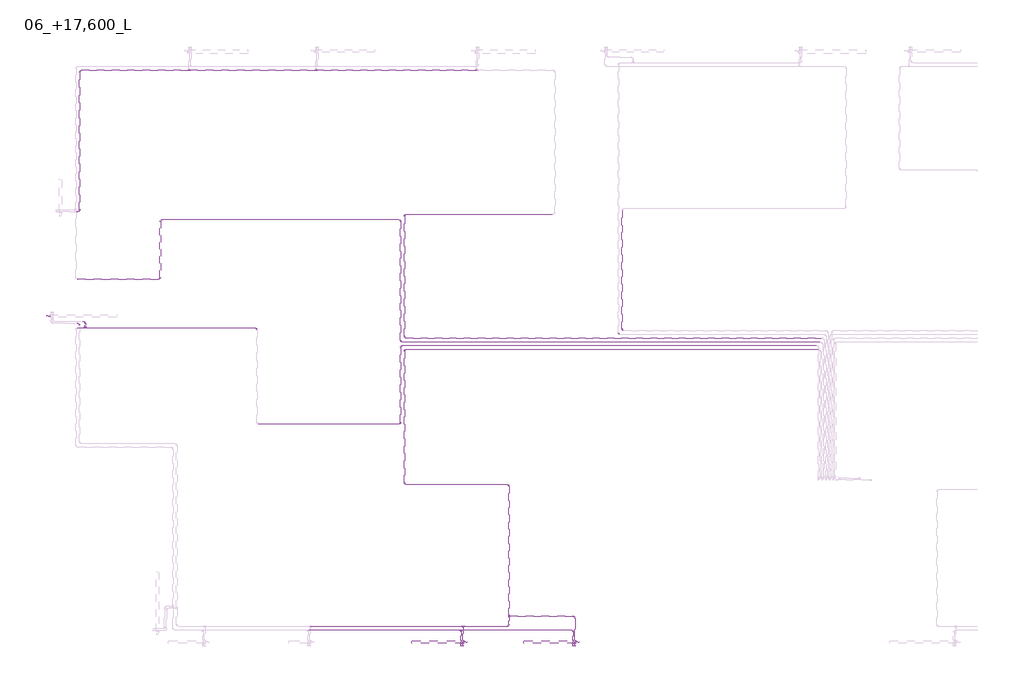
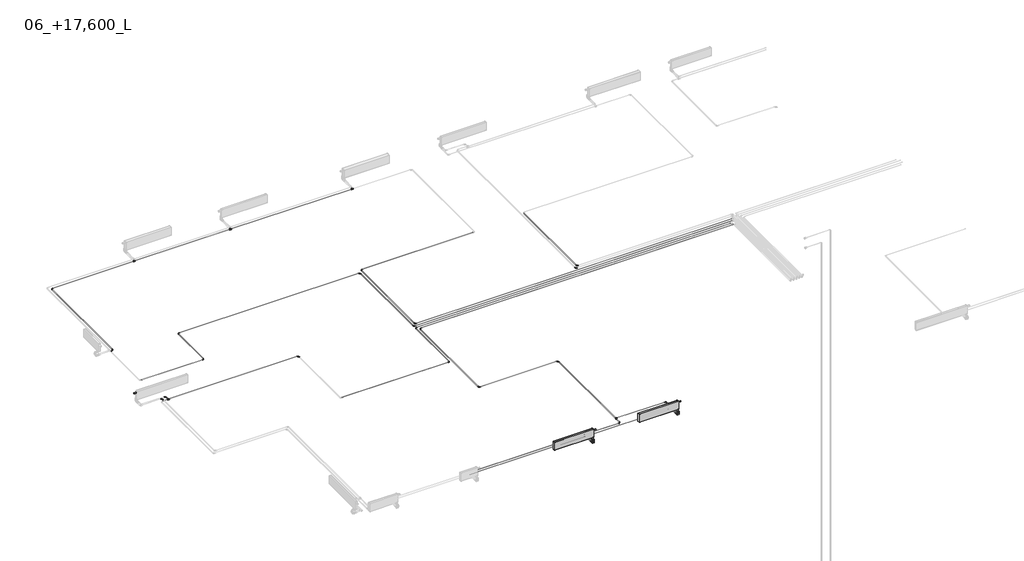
# One storey, part 2 of 7: 33 pipe segments, 32 pipe fittings, 3 valves, 2 proxies.
"""IFC4 building model written with IfcOpenShell, lengths in millimetres."""

from ifc_helpers import new_model, si_unit, point, frame, frame_2d, origin, place, context, project, spatial, circle_curve, trimmed, segment, composite_curve, outline, extrude, transform, mapped, element, save
from components import mechanical_equipment_c68842d5, pipe_fitting_ed936812, pipe_fitting_44bd76dc, pipe_fitting_8f811e63, pipe_fitting_d927fdfb, valve_5b696a81, valve_d3faaedd

model = new_model("IFC4")

# Units and contexts
model_context = context("Model", 3, world=origin())
ifc_project = project(units=[si_unit("LENGTHUNIT", "METRE", prefix="MILLI")], contexts=[model_context])

# Site, building, storey
site = spatial("IfcSite", under=ifc_project)
building = spatial("IfcBuilding", under=site)
storey = spatial("IfcBuildingStorey", under=building, Name="06_+17,600_L", Elevation=17600.0)

# Proxies
placement = place(None, origin())
mechanical_equipment_shape = mechanical_equipment_c68842d5(model_context)
element("IfcBuildingElementProxy", 1, Name="EVRA CV Д : 21-300-1400", ObjectType="EVRA CV Д : 21-300-1400", at=placement, inside=storey, context=model_context, shape_type="MappedRepresentation", body=[
    mapped(mechanical_equipment_shape, transform((60800.0, 112561.4631102, 31400.0), x_axis=(-1.0, 0.0, 0.0), y_axis=(0.0, -1.0, 0.0), z_axis=(0.0, 0.0, 1.0))),
])
element("IfcBuildingElementProxy", 2, Name="EVRA CV Д : 21-300-1400", ObjectType="EVRA CV Д : 21-300-1400", at=placement, inside=storey, context=model_context, shape_type="MappedRepresentation", body=[
    mapped(mechanical_equipment_shape, transform((57800.0, 112561.4631102, 31400.0), x_axis=(-1.0, 0.0, 0.0), y_axis=(0.0, -1.0, 0.0), z_axis=(0.0, 0.0, 1.0))),
])

# Pipe fittings
pipe_fitting_shape = pipe_fitting_ed936812(model_context)
element("IfcPipeFitting", 3, ObjectType="ADSK_Пресс-фитинг ПЭ_Поворот с фиксатором : Поворот трубы", at=placement, inside=storey, context=model_context, shape_type="MappedRepresentation", body=[
    mapped(pipe_fitting_shape, transform((48000.0, 124110.0000002, 31350.0), x_axis=(1.0, 0.0, 0.0), y_axis=(0.0, 1.0, 0.0), z_axis=(0.0, 0.0, 1.0))),
])
pipe_fitting_2_shape = pipe_fitting_44bd76dc(model_context)
element("IfcPipeFitting", 4, ObjectType="ADSK_Пресс-фитинг ПЭ_Тройник : Пластик черный", at=placement, inside=storey, context=model_context, shape_type="MappedRepresentation", body=[
    mapped(pipe_fitting_2_shape, transform((59500.0, 113273.0, 31350.0), x_axis=(0.0, 1.0, 0.0), y_axis=(-1.0, 0.0, 0.0), z_axis=(0.0, 0.0, 1.0))),
])
element("IfcPipeFitting", 5, ObjectType="ADSK_Пресс-фитинг ПЭ_Тройник : Пластик черный", at=placement, inside=storey, context=model_context, shape_type="MappedRepresentation", body=[
    mapped(pipe_fitting_2_shape, transform((58270.0, 113000.0, 31350.0), x_axis=(1.0, 0.0, 0.0), y_axis=(0.0, 1.0, 0.0), z_axis=(0.0, 0.0, 1.0))),
])
element("IfcPipeFitting", 6, ObjectType="ADSK_Пресс-фитинг ПЭ_Тройник : Пластик черный", at=placement, inside=storey, context=model_context, shape_type="MappedRepresentation", body=[
    mapped(pipe_fitting_2_shape, transform((58630.0, 127900.0, 31350.0), x_axis=(1.0, 0.0, 0.0), y_axis=(0.0, -1.0, 0.0), z_axis=(0.0, 0.0, -1.0))),
])
element("IfcPipeFitting", 7, ObjectType="ADSK_Пресс-фитинг ПЭ_Тройник : Пластик черный", at=placement, inside=storey, context=model_context, shape_type="MappedRepresentation", body=[
    mapped(pipe_fitting_2_shape, transform((48150.0, 121000.0000002, 31350.0), x_axis=(1.0, 0.0, 0.0), y_axis=(0.0, -1.0, 0.0), z_axis=(0.0, 0.0, -1.0))),
])
element("IfcPipeFitting", 8, ObjectType="ADSK_Пресс-фитинг ПЭ_Тройник : Пластик черный", at=placement, inside=storey, context=model_context, shape_type="MappedRepresentation", body=[
    mapped(pipe_fitting_2_shape, transform((50930.0, 127900.0, 31350.0), x_axis=(1.0, 0.0, 0.0), y_axis=(0.0, -1.0, 0.0), z_axis=(0.0, 0.0, -1.0))),
])
element("IfcPipeFitting", 9, ObjectType="ADSK_Пресс-фитинг ПЭ_Тройник : Пластик черный", at=placement, inside=storey, context=model_context, shape_type="MappedRepresentation", body=[
    mapped(pipe_fitting_2_shape, transform((54330.0, 127900.0, 31350.0), x_axis=(1.0, 0.0, 0.0), y_axis=(0.0, -1.0, 0.0), z_axis=(0.0, 0.0, -1.0))),
])
element("IfcPipeFitting", 10, ObjectType="ADSK_Пресс-фитинг ПЭ_Тройник : Пластик черный", at=placement, inside=storey, context=model_context, shape_type="MappedRepresentation", body=[
    mapped(pipe_fitting_2_shape, transform((58220.0, 112900.0, 31350.0), x_axis=(1.0, 0.0, 0.0), y_axis=(0.0, 1.0, 0.0), z_axis=(0.0, 0.0, 1.0))),
])
pipe_fitting_3_shape = pipe_fitting_8f811e63(model_context)
element("IfcPipeFitting", 11, ObjectType="ADSK_Пресс-фитинг ПЭ_Поворот с фиксатором : Поворот трубы", at=placement, inside=storey, context=model_context, shape_type="MappedRepresentation", body=[
    mapped(pipe_fitting_3_shape, transform((59500.0, 116805.0000002, 31350.0), x_axis=(0.0, 1.0, 0.0), y_axis=(-1.0, 0.0, 0.0), z_axis=(0.0, 0.0, 1.0))),
])
element("IfcPipeFitting", 12, ObjectType="ADSK_Пресс-фитинг ПЭ_Поворот с фиксатором : Поворот трубы", at=placement, inside=storey, context=model_context, shape_type="MappedRepresentation", body=[
    mapped(pipe_fitting_3_shape, transform((59500.0, 113000.0, 31350.0), x_axis=(1.0, 0.0, 0.0), y_axis=(0.0, 1.0, 0.0), z_axis=(0.0, 0.0, 1.0))),
])
element("IfcPipeFitting", 13, ObjectType="ADSK_Пресс-фитинг ПЭ_Поворот с фиксатором : Поворот трубы", at=placement, inside=storey, context=model_context, shape_type="MappedRepresentation", body=[
    mapped(pipe_fitting_3_shape, transform((48000.0, 127900.0, 31350.0), x_axis=(-1.0, 0.0, 0.0), y_axis=(0.0, -1.0, 0.0), z_axis=(0.0, 0.0, 1.0))),
])
element("IfcPipeFitting", 14, ObjectType="ADSK_Пресс-фитинг ПЭ_Поворот с фиксатором : Поворот трубы", at=placement, inside=storey, context=model_context, shape_type="MappedRepresentation", body=[
    mapped(pipe_fitting_3_shape, transform((56700.0, 116805.0000002, 31350.0), x_axis=(0.0, -1.0, 0.0), y_axis=(1.0, 0.0, 0.0), z_axis=(0.0, 0.0, 1.0))),
])
element("IfcPipeFitting", 15, ObjectType="ADSK_Пресс-фитинг ПЭ_Поворот с фиксатором : Поворот трубы", at=placement, inside=storey, context=model_context, shape_type="MappedRepresentation", body=[
    mapped(pipe_fitting_3_shape, transform((56600.0, 118420.0, 31350.0), x_axis=(1.0, 0.0, 0.0), y_axis=(0.0, 1.0, 0.0), z_axis=(0.0, 0.0, 1.0))),
])
element("IfcPipeFitting", 16, ObjectType="ADSK_Пресс-фитинг ПЭ_Поворот с фиксатором : Поворот трубы", at=placement, inside=storey, context=model_context, shape_type="MappedRepresentation", body=[
    mapped(pipe_fitting_3_shape, transform((56600.0, 123900.0, 31350.0), x_axis=(0.0, 1.0, 0.0), y_axis=(-1.0, 0.0, 0.0), z_axis=(0.0, 0.0, 1.0))),
])
element("IfcPipeFitting", 17, ObjectType="ADSK_Пресс-фитинг ПЭ_Поворот с фиксатором : Поворот трубы", at=placement, inside=storey, context=model_context, shape_type="MappedRepresentation", body=[
    mapped(pipe_fitting_3_shape, transform((56700.0, 120421.8369308, 31350.0), x_axis=(-1.0, 0.0, 0.0), y_axis=(0.0, -1.0, 0.0), z_axis=(0.0, 0.0, 1.0))),
])
element("IfcPipeFitting", 18, ObjectType="ADSK_Пресс-фитинг ПЭ_Поворот с фиксатором : Поворот трубы", at=placement, inside=storey, context=model_context, shape_type="MappedRepresentation", body=[
    mapped(pipe_fitting_3_shape, transform((56600.0, 120521.8369308, 31350.0), x_axis=(-1.0, 0.0, 0.0), y_axis=(0.0, -1.0, 0.0), z_axis=(0.0, 0.0, 1.0))),
])
element("IfcPipeFitting", 19, ObjectType="ADSK_Пресс-фитинг ПЭ_Поворот с фиксатором : Поворот трубы", at=placement, inside=storey, context=model_context, shape_type="MappedRepresentation", body=[
    mapped(pipe_fitting_3_shape, transform((56600.0, 120621.8369308, 31350.0), x_axis=(0.0, -1.0, 0.0), y_axis=(1.0, 0.0, 0.0), z_axis=(0.0, 0.0, 1.0))),
])
element("IfcPipeFitting", 20, ObjectType="ADSK_Пресс-фитинг ПЭ_Поворот с фиксатором : Поворот трубы", at=placement, inside=storey, context=model_context, shape_type="MappedRepresentation", body=[
    mapped(pipe_fitting_3_shape, transform((56700.0, 120721.8369308, 31350.0), x_axis=(0.0, -1.0, 0.0), y_axis=(1.0, 0.0, 0.0), z_axis=(0.0, 0.0, 1.0))),
])
element("IfcPipeFitting", 21, ObjectType="ADSK_Пресс-фитинг ПЭ_Поворот с фиксатором : Поворот трубы", at=placement, inside=storey, context=model_context, shape_type="MappedRepresentation", body=[
    mapped(pipe_fitting_3_shape, transform((62435.0, 120821.8369308, 31350.0), x_axis=(0.0, -1.0, 0.0), y_axis=(1.0, 0.0, 0.0), z_axis=(0.0, 0.0, 1.0))),
])
element("IfcPipeFitting", 22, ObjectType="ADSK_Пресс-фитинг ПЭ_Поворот с фиксатором : Поворот трубы", at=placement, inside=storey, context=model_context, shape_type="MappedRepresentation", body=[
    mapped(pipe_fitting_3_shape, transform((62535.0, 120921.8369308, 31350.0), x_axis=(0.0, -1.0, 0.0), y_axis=(1.0, 0.0, 0.0), z_axis=(0.0, 0.0, 1.0))),
])
element("IfcPipeFitting", 23, ObjectType="ADSK_Пресс-фитинг ПЭ_Поворот с фиксатором : Поворот трубы", at=placement, inside=storey, context=model_context, shape_type="MappedRepresentation", body=[
    mapped(pipe_fitting_3_shape, transform((56700.0, 124040.0, 31350.0), x_axis=(-1.0, 0.0, 0.0), y_axis=(0.0, -1.0, 0.0), z_axis=(0.0, 0.0, 1.0))),
])
element("IfcPipeFitting", 24, ObjectType="ADSK_Пресс-фитинг ПЭ_Поворот с фиксатором : Поворот трубы", at=placement, inside=storey, context=model_context, shape_type="MappedRepresentation", body=[
    mapped(pipe_fitting_3_shape, transform((50159.9999998, 123900.0, 31350.0), x_axis=(-1.0, 0.0, 0.0), y_axis=(0.0, -1.0, 0.0), z_axis=(0.0, 0.0, 1.0))),
])
element("IfcPipeFitting", 25, ObjectType="ADSK_Пресс-фитинг ПЭ_Поворот с фиксатором : Поворот трубы", at=placement, inside=storey, context=model_context, shape_type="MappedRepresentation", body=[
    mapped(pipe_fitting_3_shape, transform((50159.9999998, 122300.0, 31350.0), x_axis=(1.0, 0.0, 0.0), y_axis=(0.0, 1.0, 0.0), z_axis=(0.0, 0.0, 1.0))),
])
element("IfcPipeFitting", 26, ObjectType="ADSK_Пресс-фитинг ПЭ_Поворот с фиксатором : Поворот трубы", at=placement, inside=storey, context=model_context, shape_type="MappedRepresentation", body=[
    mapped(pipe_fitting_3_shape, transform((52749.0000003, 121000.0000002, 31350.0), x_axis=(0.0, 1.0, 0.0), y_axis=(-1.0, 0.0, 0.0), z_axis=(0.0, 0.0, 1.0))),
])
element("IfcPipeFitting", 27, ObjectType="ADSK_Пресс-фитинг ПЭ_Поворот с фиксатором : Поворот трубы", at=placement, inside=storey, context=model_context, shape_type="MappedRepresentation", body=[
    mapped(pipe_fitting_3_shape, transform((48150.0, 121173.0000002, 31350.0), x_axis=(0.0, 1.0, 0.0), y_axis=(-1.0, 0.0, 0.0), z_axis=(0.0, 0.0, 1.0))),
])
element("IfcPipeFitting", 28, ObjectType="ADSK_Пресс-фитинг ПЭ_Поворот с фиксатором : Поворот трубы", at=placement, inside=storey, context=model_context, shape_type="MappedRepresentation", body=[
    mapped(pipe_fitting_3_shape, transform((48000.0, 121123.0000002, 31350.0), x_axis=(0.0, 1.0, 0.0), y_axis=(-1.0, 0.0, 0.0), z_axis=(0.0, 0.0, 1.0))),
])
element("IfcPipeFitting", 29, ObjectType="ADSK_Пресс-фитинг ПЭ_Поворот с фиксатором : Поворот трубы", at=placement, inside=storey, context=model_context, shape_type="MappedRepresentation", body=[
    mapped(pipe_fitting_3_shape, transform((61270.0, 113273.0, 31350.0), x_axis=(0.0, 1.0, 0.0), y_axis=(-1.0, 0.0, 0.0), z_axis=(0.0, 0.0, 1.0))),
])
element("IfcPipeFitting", 30, ObjectType="ADSK_Пресс-фитинг ПЭ_Поворот с фиксатором : Поворот трубы", at=placement, inside=storey, context=model_context, shape_type="MappedRepresentation", body=[
    mapped(pipe_fitting_3_shape, transform((61220.0, 112900.0, 31350.0), x_axis=(0.0, 1.0, 0.0), y_axis=(-1.0, 0.0, 0.0), z_axis=(0.0, 0.0, 1.0))),
])
pipe_fitting_4_shape = pipe_fitting_d927fdfb(model_context)
element("IfcPipeFitting", 31, ObjectType="Трубка Г-образная VTm.481.PC из стены : VTm.481.PC", at=placement, inside=storey, context=model_context, shape_type="MappedRepresentation", body=[
    mapped(pipe_fitting_4_shape, transform((61270.0, 112512.0, 31350.0), x_axis=(-1.0, 0.0, 0.0), y_axis=(0.0, -1.0, 0.0), z_axis=(0.0, 0.0, 1.0))),
])
element("IfcPipeFitting", 32, ObjectType="Трубка Г-образная VTm.481.PC из стены : VTm.481.PC", at=placement, inside=storey, context=model_context, shape_type="MappedRepresentation", body=[
    mapped(pipe_fitting_4_shape, transform((58270.0, 112512.0, 31350.0), x_axis=(-1.0, 0.0, 0.0), y_axis=(0.0, -1.0, 0.0), z_axis=(0.0, 0.0, 1.0))),
])
element("IfcPipeFitting", 33, ObjectType="Трубка Г-образная VTm.481.PC из стены : VTm.481.PC", at=placement, inside=storey, context=model_context, shape_type="MappedRepresentation", body=[
    mapped(pipe_fitting_4_shape, transform((61220.0, 112512.0, 31350.0), x_axis=(-1.0, 0.0, 0.0), y_axis=(0.0, -1.0, 0.0), z_axis=(0.0, 0.0, 1.0))),
])
element("IfcPipeFitting", 34, ObjectType="Трубка Г-образная VTm.481.PC из стены : VTm.481.PC", at=placement, inside=storey, context=model_context, shape_type="MappedRepresentation", body=[
    mapped(pipe_fitting_4_shape, transform((58220.0, 112512.0, 31350.0), x_axis=(-1.0, 0.0, 0.0), y_axis=(0.0, -1.0, 0.0), z_axis=(0.0, 0.0, 1.0))),
])

# Pipe segments
element("IfcPipeSegment", 35, ObjectType="ADSK_Полиэтилен сшитый", at=placement, inside=storey, context=model_context, shape_type="SweptSolid", body=[
    extrude(outline(composite_curve([segment(trimmed(circle_curve(frame_2d((127900.0, 31350.0)), 8.0), [point((127908.0, 31350.0))], [point((127900.0, 31342.0))], False, "CARTESIAN"), True, "CONTINUOUS"), segment(trimmed(circle_curve(frame_2d((127900.0, 31350.0)), 8.0), [point((127900.0, 31342.0))], [point((127892.0, 31350.0))], False, "CARTESIAN"), True, "CONTINUOUS"), segment(trimmed(circle_curve(frame_2d((127900.0, 31350.0)), 8.0), [point((127892.0, 31350.0))], [point((127900.0, 31358.0))], False, "CARTESIAN"), True, "CONTINUOUS"), segment(trimmed(circle_curve(frame_2d((127900.0, 31350.0)), 8.0), [point((127900.0, 31358.0))], [point((127908.0, 31350.0))], False, "CARTESIAN"), True, "CONTINUOUS")], self_intersect=False)), frame((48048.0, 0.0, 0.0), z_axis=(1.0, 0.0, 0.0), x_axis=(0.0, 1.0, 0.0)), (0.0, 0.0, 1.0), 2862.0),
])
element("IfcPipeSegment", 36, ObjectType="ADSK_Полиэтилен сшитый", at=placement, inside=storey, context=model_context, shape_type="SweptSolid", body=[
    extrude(outline(composite_curve([segment(trimmed(circle_curve(frame_2d((31350.0, 56600.0)), 8.0), [point((31350.0, 56592.0))], [point((31342.0, 56600.0))], False, "CARTESIAN"), True, "CONTINUOUS"), segment(trimmed(circle_curve(frame_2d((31350.0, 56600.0)), 8.0), [point((31342.0, 56600.0))], [point((31350.0, 56608.0))], False, "CARTESIAN"), True, "CONTINUOUS"), segment(trimmed(circle_curve(frame_2d((31350.0, 56600.0)), 8.0), [point((31350.0, 56608.0))], [point((31358.0, 56600.0))], False, "CARTESIAN"), True, "CONTINUOUS"), segment(trimmed(circle_curve(frame_2d((31350.0, 56600.0)), 8.0), [point((31358.0, 56600.0))], [point((31350.0, 56592.0))], False, "CARTESIAN"), True, "CONTINUOUS")], self_intersect=False)), frame((0.0, 118468.0, 0.0), z_axis=(0.0, 1.0, 0.0), x_axis=(0.0, 0.0, 1.0)), (0.0, 0.0, 1.0), 2005.8369308),
])
element("IfcPipeSegment", 37, ObjectType="ADSK_Полиэтилен сшитый", at=placement, inside=storey, context=model_context, shape_type="SweptSolid", body=[
    extrude(outline(composite_curve([segment(trimmed(circle_curve(frame_2d((31350.0, 56700.0)), 8.0), [point((31350.0, 56692.0))], [point((31342.0, 56700.0))], False, "CARTESIAN"), True, "CONTINUOUS"), segment(trimmed(circle_curve(frame_2d((31350.0, 56700.0)), 8.0), [point((31342.0, 56700.0))], [point((31350.0, 56708.0))], False, "CARTESIAN"), True, "CONTINUOUS"), segment(trimmed(circle_curve(frame_2d((31350.0, 56700.0)), 8.0), [point((31350.0, 56708.0))], [point((31358.0, 56700.0))], False, "CARTESIAN"), True, "CONTINUOUS"), segment(trimmed(circle_curve(frame_2d((31350.0, 56700.0)), 8.0), [point((31358.0, 56700.0))], [point((31350.0, 56692.0))], False, "CARTESIAN"), True, "CONTINUOUS")], self_intersect=False)), frame((0.0, 116853.0000002, 0.0), z_axis=(0.0, 1.0, 0.0), x_axis=(0.0, 0.0, 1.0)), (0.0, 0.0, 1.0), 3520.8369306),
])
element("IfcPipeSegment", 38, ObjectType="ADSK_Полиэтилен сшитый", at=placement, inside=storey, context=model_context, shape_type="SweptSolid", body=[
    extrude(outline(composite_curve([segment(trimmed(circle_curve(frame_2d((116805.0000002, 31350.0)), 8.0), [point((116797.0000002, 31350.0))], [point((116805.0000002, 31358.0))], False, "CARTESIAN"), True, "CONTINUOUS"), segment(trimmed(circle_curve(frame_2d((116805.0000002, 31350.0)), 8.0), [point((116805.0000002, 31358.0))], [point((116813.0000002, 31350.0))], False, "CARTESIAN"), True, "CONTINUOUS"), segment(trimmed(circle_curve(frame_2d((116805.0000002, 31350.0)), 8.0), [point((116813.0000002, 31350.0))], [point((116805.0000002, 31342.0))], False, "CARTESIAN"), True, "CONTINUOUS"), segment(trimmed(circle_curve(frame_2d((116805.0000002, 31350.0)), 8.0), [point((116805.0000002, 31342.0))], [point((116797.0000002, 31350.0))], False, "CARTESIAN"), True, "CONTINUOUS")], self_intersect=False)), frame((56748.0, 0.0, 0.0), z_axis=(1.0, 0.0, 0.0), x_axis=(0.0, 1.0, 0.0)), (0.0, 0.0, 1.0), 2704.0),
])
element("IfcPipeSegment", 39, ObjectType="ADSK_Полиэтилен сшитый", at=placement, inside=storey, context=model_context, shape_type="SweptSolid", body=[
    extrude(outline(composite_curve([segment(trimmed(circle_curve(frame_2d((31350.0, 59500.0)), 8.0), [point((31350.0, 59492.0))], [point((31342.0, 59500.0))], False, "CARTESIAN"), True, "CONTINUOUS"), segment(trimmed(circle_curve(frame_2d((31350.0, 59500.0)), 8.0), [point((31342.0, 59500.0))], [point((31350.0, 59508.0))], False, "CARTESIAN"), True, "CONTINUOUS"), segment(trimmed(circle_curve(frame_2d((31350.0, 59500.0)), 8.0), [point((31350.0, 59508.0))], [point((31358.0, 59500.0))], False, "CARTESIAN"), True, "CONTINUOUS"), segment(trimmed(circle_curve(frame_2d((31350.0, 59500.0)), 8.0), [point((31358.0, 59500.0))], [point((31350.0, 59492.0))], False, "CARTESIAN"), True, "CONTINUOUS")], self_intersect=False)), frame((0.0, 113048.0, 0.0), z_axis=(0.0, 1.0, 0.0), x_axis=(0.0, 0.0, 1.0)), (0.0, 0.0, 1.0), 205.0),
])
element("IfcPipeSegment", 40, ObjectType="ADSK_Полиэтилен сшитый", at=placement, inside=storey, context=model_context, shape_type="SweptSolid", body=[
    extrude(outline(composite_curve([segment(trimmed(circle_curve(frame_2d((31350.0, 61220.0)), 8.0), [point((31350.0, 61212.0))], [point((31342.0, 61220.0))], False, "CARTESIAN"), True, "CONTINUOUS"), segment(trimmed(circle_curve(frame_2d((31350.0, 61220.0)), 8.0), [point((31342.0, 61220.0))], [point((31350.0, 61228.0))], False, "CARTESIAN"), True, "CONTINUOUS"), segment(trimmed(circle_curve(frame_2d((31350.0, 61220.0)), 8.0), [point((31350.0, 61228.0))], [point((31358.0, 61220.0))], False, "CARTESIAN"), True, "CONTINUOUS"), segment(trimmed(circle_curve(frame_2d((31350.0, 61220.0)), 8.0), [point((31358.0, 61220.0))], [point((31350.0, 61212.0))], False, "CARTESIAN"), True, "CONTINUOUS")], self_intersect=False)), frame((0.0, 112627.0, 0.0), z_axis=(0.0, 1.0, 0.0), x_axis=(0.0, 0.0, 1.0)), (0.0, 0.0, 1.0), 225.0),
])
element("IfcPipeSegment", 41, ObjectType="ADSK_Полиэтилен сшитый", at=placement, inside=storey, context=model_context, shape_type="SweptSolid", body=[
    extrude(outline(composite_curve([segment(trimmed(circle_curve(frame_2d((112900.0, 31350.0)), 8.0), [point((112892.0, 31350.0))], [point((112900.0, 31358.0))], False, "CARTESIAN"), True, "CONTINUOUS"), segment(trimmed(circle_curve(frame_2d((112900.0, 31350.0)), 8.0), [point((112900.0, 31358.0))], [point((112908.0, 31350.0))], False, "CARTESIAN"), True, "CONTINUOUS"), segment(trimmed(circle_curve(frame_2d((112900.0, 31350.0)), 8.0), [point((112908.0, 31350.0))], [point((112900.0, 31342.0))], False, "CARTESIAN"), True, "CONTINUOUS"), segment(trimmed(circle_curve(frame_2d((112900.0, 31350.0)), 8.0), [point((112900.0, 31342.0))], [point((112892.0, 31350.0))], False, "CARTESIAN"), True, "CONTINUOUS")], self_intersect=False)), frame((58240.0, 0.0, 0.0), z_axis=(1.0, 0.0, 0.0), x_axis=(0.0, 1.0, 0.0)), (0.0, 0.0, 1.0), 2932.0),
])
element("IfcPipeSegment", 42, ObjectType="ADSK_Полиэтилен сшитый", at=placement, inside=storey, context=model_context, shape_type="SweptSolid", body=[
    extrude(outline(composite_curve([segment(trimmed(circle_curve(frame_2d((31350.0, 61270.0)), 8.0), [point((31350.0, 61262.0))], [point((31342.0, 61270.0))], False, "CARTESIAN"), True, "CONTINUOUS"), segment(trimmed(circle_curve(frame_2d((31350.0, 61270.0)), 8.0), [point((31342.0, 61270.0))], [point((31350.0, 61278.0))], False, "CARTESIAN"), True, "CONTINUOUS"), segment(trimmed(circle_curve(frame_2d((31350.0, 61270.0)), 8.0), [point((31350.0, 61278.0))], [point((31358.0, 61270.0))], False, "CARTESIAN"), True, "CONTINUOUS"), segment(trimmed(circle_curve(frame_2d((31350.0, 61270.0)), 8.0), [point((31358.0, 61270.0))], [point((31350.0, 61262.0))], False, "CARTESIAN"), True, "CONTINUOUS")], self_intersect=False)), frame((0.0, 112627.0, 0.0), z_axis=(0.0, 1.0, 0.0), x_axis=(0.0, 0.0, 1.0)), (0.0, 0.0, 1.0), 598.0),
])
element("IfcPipeSegment", 43, ObjectType="ADSK_Полиэтилен сшитый", at=placement, inside=storey, context=model_context, shape_type="SweptSolid", body=[
    extrude(outline(composite_curve([segment(trimmed(circle_curve(frame_2d((113273.0, 31350.0)), 8.0), [point((113265.0, 31350.0))], [point((113273.0, 31358.0))], False, "CARTESIAN"), True, "CONTINUOUS"), segment(trimmed(circle_curve(frame_2d((113273.0, 31350.0)), 8.0), [point((113273.0, 31358.0))], [point((113281.0, 31350.0))], False, "CARTESIAN"), True, "CONTINUOUS"), segment(trimmed(circle_curve(frame_2d((113273.0, 31350.0)), 8.0), [point((113281.0, 31350.0))], [point((113273.0, 31342.0))], False, "CARTESIAN"), True, "CONTINUOUS"), segment(trimmed(circle_curve(frame_2d((113273.0, 31350.0)), 8.0), [point((113273.0, 31342.0))], [point((113265.0, 31350.0))], False, "CARTESIAN"), True, "CONTINUOUS")], self_intersect=False)), frame((59524.0, 0.0, 0.0), z_axis=(1.0, 0.0, 0.0), x_axis=(0.0, 1.0, 0.0)), (0.0, 0.0, 1.0), 1698.0),
])
element("IfcPipeSegment", 44, ObjectType="ADSK_Полиэтилен сшитый", at=placement, inside=storey, context=model_context, shape_type="SweptSolid", body=[
    extrude(outline(composite_curve([segment(trimmed(circle_curve(frame_2d((31350.0, 59500.0)), 8.0), [point((31350.0, 59492.0))], [point((31342.0, 59500.0))], False, "CARTESIAN"), True, "CONTINUOUS"), segment(trimmed(circle_curve(frame_2d((31350.0, 59500.0)), 8.0), [point((31342.0, 59500.0))], [point((31350.0, 59508.0))], False, "CARTESIAN"), True, "CONTINUOUS"), segment(trimmed(circle_curve(frame_2d((31350.0, 59500.0)), 8.0), [point((31350.0, 59508.0))], [point((31358.0, 59500.0))], False, "CARTESIAN"), True, "CONTINUOUS"), segment(trimmed(circle_curve(frame_2d((31350.0, 59500.0)), 8.0), [point((31358.0, 59500.0))], [point((31350.0, 59492.0))], False, "CARTESIAN"), True, "CONTINUOUS")], self_intersect=False)), frame((0.0, 113293.0, 0.0), z_axis=(0.0, 1.0, 0.0), x_axis=(0.0, 0.0, 1.0)), (0.0, 0.0, 1.0), 3464.0000002),
])
element("IfcPipeSegment", 45, ObjectType="ADSK_Полиэтилен сшитый", at=placement, inside=storey, context=model_context, shape_type="SweptSolid", body=[
    extrude(outline(composite_curve([segment(trimmed(circle_curve(frame_2d((31350.0, 58220.0)), 8.0), [point((31350.0, 58212.0))], [point((31342.0, 58220.0))], False, "CARTESIAN"), True, "CONTINUOUS"), segment(trimmed(circle_curve(frame_2d((31350.0, 58220.0)), 8.0), [point((31342.0, 58220.0))], [point((31350.0, 58228.0))], False, "CARTESIAN"), True, "CONTINUOUS"), segment(trimmed(circle_curve(frame_2d((31350.0, 58220.0)), 8.0), [point((31350.0, 58228.0))], [point((31358.0, 58220.0))], False, "CARTESIAN"), True, "CONTINUOUS"), segment(trimmed(circle_curve(frame_2d((31350.0, 58220.0)), 8.0), [point((31358.0, 58220.0))], [point((31350.0, 58212.0))], False, "CARTESIAN"), True, "CONTINUOUS")], self_intersect=False)), frame((0.0, 112627.0, 0.0), z_axis=(0.0, 1.0, 0.0), x_axis=(0.0, 0.0, 1.0)), (0.0, 0.0, 1.0), 249.0),
])
element("IfcPipeSegment", 46, ObjectType="ADSK_Полиэтилен сшитый", at=placement, inside=storey, context=model_context, shape_type="SweptSolid", body=[
    extrude(outline(composite_curve([segment(trimmed(circle_curve(frame_2d((31350.0, 58270.0)), 8.0), [point((31350.0, 58262.0))], [point((31342.0, 58270.0))], False, "CARTESIAN"), True, "CONTINUOUS"), segment(trimmed(circle_curve(frame_2d((31350.0, 58270.0)), 8.0), [point((31342.0, 58270.0))], [point((31350.0, 58278.0))], False, "CARTESIAN"), True, "CONTINUOUS"), segment(trimmed(circle_curve(frame_2d((31350.0, 58270.0)), 8.0), [point((31350.0, 58278.0))], [point((31358.0, 58270.0))], False, "CARTESIAN"), True, "CONTINUOUS"), segment(trimmed(circle_curve(frame_2d((31350.0, 58270.0)), 8.0), [point((31358.0, 58270.0))], [point((31350.0, 58262.0))], False, "CARTESIAN"), True, "CONTINUOUS")], self_intersect=False)), frame((0.0, 112627.0, 0.0), z_axis=(0.0, 1.0, 0.0), x_axis=(0.0, 0.0, 1.0)), (0.0, 0.0, 1.0), 349.0),
])
element("IfcPipeSegment", 47, ObjectType="ADSK_Полиэтилен сшитый", at=placement, inside=storey, context=model_context, shape_type="SweptSolid", body=[
    extrude(outline(composite_curve([segment(trimmed(circle_curve(frame_2d((113000.0, 31350.0)), 8.0), [point((113008.0, 31350.0))], [point((113000.0, 31342.0))], False, "CARTESIAN"), True, "CONTINUOUS"), segment(trimmed(circle_curve(frame_2d((113000.0, 31350.0)), 8.0), [point((113000.0, 31342.0))], [point((112992.0, 31350.0))], False, "CARTESIAN"), True, "CONTINUOUS"), segment(trimmed(circle_curve(frame_2d((113000.0, 31350.0)), 8.0), [point((112992.0, 31350.0))], [point((113000.0, 31358.0))], False, "CARTESIAN"), True, "CONTINUOUS"), segment(trimmed(circle_curve(frame_2d((113000.0, 31350.0)), 8.0), [point((113000.0, 31358.0))], [point((113008.0, 31350.0))], False, "CARTESIAN"), True, "CONTINUOUS")], self_intersect=False)), frame((58290.0, 0.0, 0.0), z_axis=(1.0, 0.0, 0.0), x_axis=(0.0, 1.0, 0.0)), (0.0, 0.0, 1.0), 1162.0),
])
element("IfcPipeSegment", 48, ObjectType="ADSK_Полиэтилен сшитый", at=placement, inside=storey, context=model_context, shape_type="SweptSolid", body=[
    extrude(outline(composite_curve([segment(trimmed(circle_curve(frame_2d((31350.0, 56600.0)), 8.0), [point((31350.0, 56608.0))], [point((31358.0, 56600.0))], False, "CARTESIAN"), True, "CONTINUOUS"), segment(trimmed(circle_curve(frame_2d((31350.0, 56600.0)), 8.0), [point((31358.0, 56600.0))], [point((31350.0, 56592.0))], False, "CARTESIAN"), True, "CONTINUOUS"), segment(trimmed(circle_curve(frame_2d((31350.0, 56600.0)), 8.0), [point((31350.0, 56592.0))], [point((31342.0, 56600.0))], False, "CARTESIAN"), True, "CONTINUOUS"), segment(trimmed(circle_curve(frame_2d((31350.0, 56600.0)), 8.0), [point((31342.0, 56600.0))], [point((31350.0, 56608.0))], False, "CARTESIAN"), True, "CONTINUOUS")], self_intersect=False)), frame((0.0, 120669.8369308, 0.0), z_axis=(0.0, 1.0, 0.0), x_axis=(0.0, 0.0, 1.0)), (0.0, 0.0, 1.0), 3182.1630692),
])
element("IfcPipeSegment", 49, ObjectType="ADSK_Полиэтилен сшитый", at=placement, inside=storey, context=model_context, shape_type="SweptSolid", body=[
    extrude(outline(composite_curve([segment(trimmed(circle_curve(frame_2d((31350.0, 56700.0)), 8.0), [point((31350.0, 56708.0))], [point((31358.0, 56700.0))], False, "CARTESIAN"), True, "CONTINUOUS"), segment(trimmed(circle_curve(frame_2d((31350.0, 56700.0)), 8.0), [point((31358.0, 56700.0))], [point((31350.0, 56692.0))], False, "CARTESIAN"), True, "CONTINUOUS"), segment(trimmed(circle_curve(frame_2d((31350.0, 56700.0)), 8.0), [point((31350.0, 56692.0))], [point((31342.0, 56700.0))], False, "CARTESIAN"), True, "CONTINUOUS"), segment(trimmed(circle_curve(frame_2d((31350.0, 56700.0)), 8.0), [point((31342.0, 56700.0))], [point((31350.0, 56708.0))], False, "CARTESIAN"), True, "CONTINUOUS")], self_intersect=False)), frame((0.0, 120769.8369308, 0.0), z_axis=(0.0, 1.0, 0.0), x_axis=(0.0, 0.0, 1.0)), (0.0, 0.0, 1.0), 3222.1630692),
])
element("IfcPipeSegment", 50, ObjectType="ADSK_Полиэтилен сшитый", at=placement, inside=storey, context=model_context, shape_type="SweptSolid", body=[
    extrude(outline(composite_curve([segment(trimmed(circle_curve(frame_2d((124040.0, 31350.0)), 8.0), [point((124048.0, 31350.0))], [point((124040.0, 31342.0))], False, "CARTESIAN"), True, "CONTINUOUS"), segment(trimmed(circle_curve(frame_2d((124040.0, 31350.0)), 8.0), [point((124040.0, 31342.0))], [point((124032.0, 31350.0))], False, "CARTESIAN"), True, "CONTINUOUS"), segment(trimmed(circle_curve(frame_2d((124040.0, 31350.0)), 8.0), [point((124032.0, 31350.0))], [point((124040.0, 31358.0))], False, "CARTESIAN"), True, "CONTINUOUS"), segment(trimmed(circle_curve(frame_2d((124040.0, 31350.0)), 8.0), [point((124040.0, 31358.0))], [point((124048.0, 31350.0))], False, "CARTESIAN"), True, "CONTINUOUS")], self_intersect=False)), frame((56748.0, 0.0, 0.0), z_axis=(1.0, 0.0, 0.0), x_axis=(0.0, 1.0, 0.0)), (0.0, 0.0, 1.0), 3934.0),
])
element("IfcPipeSegment", 51, ObjectType="ADSK_Полиэтилен сшитый", at=placement, inside=storey, context=model_context, shape_type="SweptSolid", body=[
    extrude(outline(composite_curve([segment(trimmed(circle_curve(frame_2d((127900.0, 31350.0)), 8.0), [point((127908.0, 31350.0))], [point((127900.0, 31342.0))], False, "CARTESIAN"), True, "CONTINUOUS"), segment(trimmed(circle_curve(frame_2d((127900.0, 31350.0)), 8.0), [point((127900.0, 31342.0))], [point((127892.0, 31350.0))], False, "CARTESIAN"), True, "CONTINUOUS"), segment(trimmed(circle_curve(frame_2d((127900.0, 31350.0)), 8.0), [point((127892.0, 31350.0))], [point((127900.0, 31358.0))], False, "CARTESIAN"), True, "CONTINUOUS"), segment(trimmed(circle_curve(frame_2d((127900.0, 31350.0)), 8.0), [point((127900.0, 31358.0))], [point((127908.0, 31350.0))], False, "CARTESIAN"), True, "CONTINUOUS")], self_intersect=False)), frame((50950.0, 0.0, 0.0), z_axis=(1.0, 0.0, 0.0), x_axis=(0.0, 1.0, 0.0)), (0.0, 0.0, 1.0), 3360.0),
])
element("IfcPipeSegment", 52, ObjectType="ADSK_Полиэтилен сшитый", at=placement, inside=storey, context=model_context, shape_type="SweptSolid", body=[
    extrude(outline(composite_curve([segment(trimmed(circle_curve(frame_2d((31350.0, 48000.0)), 8.0), [point((31350.0, 47992.0))], [point((31342.0, 48000.0))], False, "CARTESIAN"), True, "CONTINUOUS"), segment(trimmed(circle_curve(frame_2d((31350.0, 48000.0)), 8.0), [point((31342.0, 48000.0))], [point((31350.0, 48008.0))], False, "CARTESIAN"), True, "CONTINUOUS"), segment(trimmed(circle_curve(frame_2d((31350.0, 48000.0)), 8.0), [point((31350.0, 48008.0))], [point((31358.0, 48000.0))], False, "CARTESIAN"), True, "CONTINUOUS"), segment(trimmed(circle_curve(frame_2d((31350.0, 48000.0)), 8.0), [point((31358.0, 48000.0))], [point((31350.0, 47992.0))], False, "CARTESIAN"), True, "CONTINUOUS")], self_intersect=False)), frame((0.0, 124158.0000002, 0.0), z_axis=(0.0, 1.0, 0.0), x_axis=(0.0, 0.0, 1.0)), (0.0, 0.0, 1.0), 3693.9999998),
])
element("IfcPipeSegment", 53, ObjectType="ADSK_Полиэтилен сшитый", at=placement, inside=storey, context=model_context, shape_type="SweptSolid", body=[
    extrude(outline(composite_curve([segment(trimmed(circle_curve(frame_2d((31350.0, 62535.0)), 8.0), [point((31350.0, 62543.0))], [point((31358.0, 62535.0))], False, "CARTESIAN"), True, "CONTINUOUS"), segment(trimmed(circle_curve(frame_2d((31350.0, 62535.0)), 8.0), [point((31358.0, 62535.0))], [point((31350.0, 62527.0))], False, "CARTESIAN"), True, "CONTINUOUS"), segment(trimmed(circle_curve(frame_2d((31350.0, 62535.0)), 8.0), [point((31350.0, 62527.0))], [point((31342.0, 62535.0))], False, "CARTESIAN"), True, "CONTINUOUS"), segment(trimmed(circle_curve(frame_2d((31350.0, 62535.0)), 8.0), [point((31342.0, 62535.0))], [point((31350.0, 62543.0))], False, "CARTESIAN"), True, "CONTINUOUS")], self_intersect=False)), frame((0.0, 120969.8369308, 0.0), z_axis=(0.0, 1.0, 0.0), x_axis=(0.0, 0.0, 1.0)), (0.0, 0.0, 1.0), 3182.1630692),
])
element("IfcPipeSegment", 54, ObjectType="ADSK_Полиэтилен сшитый", at=placement, inside=storey, context=model_context, shape_type="SweptSolid", body=[
    extrude(outline(composite_curve([segment(trimmed(circle_curve(frame_2d((120721.8369308, 31350.0)), 8.0), [point((120729.8369308, 31350.0))], [point((120721.8369308, 31342.0))], False, "CARTESIAN"), True, "CONTINUOUS"), segment(trimmed(circle_curve(frame_2d((120721.8369308, 31350.0)), 8.0), [point((120721.8369308, 31342.0))], [point((120713.8369308, 31350.0))], False, "CARTESIAN"), True, "CONTINUOUS"), segment(trimmed(circle_curve(frame_2d((120721.8369308, 31350.0)), 8.0), [point((120713.8369308, 31350.0))], [point((120721.8369308, 31358.0))], False, "CARTESIAN"), True, "CONTINUOUS"), segment(trimmed(circle_curve(frame_2d((120721.8369308, 31350.0)), 8.0), [point((120721.8369308, 31358.0))], [point((120729.8369308, 31350.0))], False, "CARTESIAN"), True, "CONTINUOUS")], self_intersect=False)), frame((56748.0, 0.0, 0.0), z_axis=(1.0, 0.0, 0.0), x_axis=(0.0, 1.0, 0.0)), (0.0, 0.0, 1.0), 11149.0),
])
element("IfcPipeSegment", 55, ObjectType="ADSK_Полиэтилен сшитый", at=placement, inside=storey, context=model_context, shape_type="SweptSolid", body=[
    extrude(outline(composite_curve([segment(trimmed(circle_curve(frame_2d((120621.8369308, 31350.0)), 8.0), [point((120629.8369308, 31350.0))], [point((120621.8369308, 31342.0))], False, "CARTESIAN"), True, "CONTINUOUS"), segment(trimmed(circle_curve(frame_2d((120621.8369308, 31350.0)), 8.0), [point((120621.8369308, 31342.0))], [point((120613.8369308, 31350.0))], False, "CARTESIAN"), True, "CONTINUOUS"), segment(trimmed(circle_curve(frame_2d((120621.8369308, 31350.0)), 8.0), [point((120613.8369308, 31350.0))], [point((120621.8369308, 31358.0))], False, "CARTESIAN"), True, "CONTINUOUS"), segment(trimmed(circle_curve(frame_2d((120621.8369308, 31350.0)), 8.0), [point((120621.8369308, 31358.0))], [point((120629.8369308, 31350.0))], False, "CARTESIAN"), True, "CONTINUOUS")], self_intersect=False)), frame((56648.0, 0.0, 0.0), z_axis=(1.0, 0.0, 0.0), x_axis=(0.0, 1.0, 0.0)), (0.0, 0.0, 1.0), 11199.0),
])
element("IfcPipeSegment", 56, ObjectType="ADSK_Полиэтилен сшитый", at=placement, inside=storey, context=model_context, shape_type="SweptSolid", body=[
    extrude(outline(composite_curve([segment(trimmed(circle_curve(frame_2d((120521.8369308, 31350.0)), 8.0), [point((120529.8369308, 31350.0))], [point((120521.8369308, 31342.0))], False, "CARTESIAN"), True, "CONTINUOUS"), segment(trimmed(circle_curve(frame_2d((120521.8369308, 31350.0)), 8.0), [point((120521.8369308, 31342.0))], [point((120513.8369308, 31350.0))], False, "CARTESIAN"), True, "CONTINUOUS"), segment(trimmed(circle_curve(frame_2d((120521.8369308, 31350.0)), 8.0), [point((120513.8369308, 31350.0))], [point((120521.8369308, 31358.0))], False, "CARTESIAN"), True, "CONTINUOUS"), segment(trimmed(circle_curve(frame_2d((120521.8369308, 31350.0)), 8.0), [point((120521.8369308, 31358.0))], [point((120529.8369308, 31350.0))], False, "CARTESIAN"), True, "CONTINUOUS")], self_intersect=False)), frame((56648.0, 0.0, 0.0), z_axis=(1.0, 0.0, 0.0), x_axis=(0.0, 1.0, 0.0)), (0.0, 0.0, 1.0), 11099.0),
])
element("IfcPipeSegment", 57, ObjectType="ADSK_Полиэтилен сшитый", at=placement, inside=storey, context=model_context, shape_type="SweptSolid", body=[
    extrude(outline(composite_curve([segment(trimmed(circle_curve(frame_2d((120421.8369308, 31350.0)), 8.0), [point((120429.8369308, 31350.0))], [point((120421.8369308, 31342.0))], False, "CARTESIAN"), True, "CONTINUOUS"), segment(trimmed(circle_curve(frame_2d((120421.8369308, 31350.0)), 8.0), [point((120421.8369308, 31342.0))], [point((120413.8369308, 31350.0))], False, "CARTESIAN"), True, "CONTINUOUS"), segment(trimmed(circle_curve(frame_2d((120421.8369308, 31350.0)), 8.0), [point((120413.8369308, 31350.0))], [point((120421.8369308, 31358.0))], False, "CARTESIAN"), True, "CONTINUOUS"), segment(trimmed(circle_curve(frame_2d((120421.8369308, 31350.0)), 8.0), [point((120421.8369308, 31358.0))], [point((120429.8369308, 31350.0))], False, "CARTESIAN"), True, "CONTINUOUS")], self_intersect=False)), frame((56748.0, 0.0, 0.0), z_axis=(1.0, 0.0, 0.0), x_axis=(0.0, 1.0, 0.0)), (0.0, 0.0, 1.0), 11049.0),
])
element("IfcPipeSegment", 58, ObjectType="ADSK_Полиэтилен сшитый", at=placement, inside=storey, context=model_context, shape_type="SweptSolid", body=[
    extrude(outline(composite_curve([segment(trimmed(circle_curve(frame_2d((123900.0, 31350.0)), 8.0), [point((123908.0, 31350.0))], [point((123900.0, 31342.0))], False, "CARTESIAN"), True, "CONTINUOUS"), segment(trimmed(circle_curve(frame_2d((123900.0, 31350.0)), 8.0), [point((123900.0, 31342.0))], [point((123892.0, 31350.0))], False, "CARTESIAN"), True, "CONTINUOUS"), segment(trimmed(circle_curve(frame_2d((123900.0, 31350.0)), 8.0), [point((123892.0, 31350.0))], [point((123900.0, 31358.0))], False, "CARTESIAN"), True, "CONTINUOUS"), segment(trimmed(circle_curve(frame_2d((123900.0, 31350.0)), 8.0), [point((123900.0, 31358.0))], [point((123908.0, 31350.0))], False, "CARTESIAN"), True, "CONTINUOUS")], self_intersect=False)), frame((50207.9999998, 0.0, 0.0), z_axis=(1.0, 0.0, 0.0), x_axis=(0.0, 1.0, 0.0)), (0.0, 0.0, 1.0), 6344.0000002),
])
element("IfcPipeSegment", 59, ObjectType="ADSK_Полиэтилен сшитый", at=placement, inside=storey, context=model_context, shape_type="SweptSolid", body=[
    extrude(outline(composite_curve([segment(trimmed(circle_curve(frame_2d((31350.0, 50159.9999998)), 8.0), [point((31350.0, 50151.9999998))], [point((31342.0, 50159.9999998))], False, "CARTESIAN"), True, "CONTINUOUS"), segment(trimmed(circle_curve(frame_2d((31350.0, 50159.9999998)), 8.0), [point((31342.0, 50159.9999998))], [point((31350.0, 50167.9999998))], False, "CARTESIAN"), True, "CONTINUOUS"), segment(trimmed(circle_curve(frame_2d((31350.0, 50159.9999998)), 8.0), [point((31350.0, 50167.9999998))], [point((31358.0, 50159.9999998))], False, "CARTESIAN"), True, "CONTINUOUS"), segment(trimmed(circle_curve(frame_2d((31350.0, 50159.9999998)), 8.0), [point((31358.0, 50159.9999998))], [point((31350.0, 50151.9999998))], False, "CARTESIAN"), True, "CONTINUOUS")], self_intersect=False)), frame((0.0, 122348.0, 0.0), z_axis=(0.0, 1.0, 0.0), x_axis=(0.0, 0.0, 1.0)), (0.0, 0.0, 1.0), 1504.0),
])
element("IfcPipeSegment", 60, ObjectType="ADSK_Полиэтилен сшитый", at=placement, inside=storey, context=model_context, shape_type="SweptSolid", body=[
    extrude(outline(composite_curve([segment(trimmed(circle_curve(frame_2d((122300.0, 31350.0)), 8.0), [point((122292.0, 31350.0))], [point((122300.0, 31358.0))], False, "CARTESIAN"), True, "CONTINUOUS"), segment(trimmed(circle_curve(frame_2d((122300.0, 31350.0)), 8.0), [point((122300.0, 31358.0))], [point((122308.0, 31350.0))], False, "CARTESIAN"), True, "CONTINUOUS"), segment(trimmed(circle_curve(frame_2d((122300.0, 31350.0)), 8.0), [point((122308.0, 31350.0))], [point((122300.0, 31342.0))], False, "CARTESIAN"), True, "CONTINUOUS"), segment(trimmed(circle_curve(frame_2d((122300.0, 31350.0)), 8.0), [point((122300.0, 31342.0))], [point((122292.0, 31350.0))], False, "CARTESIAN"), True, "CONTINUOUS")], self_intersect=False)), frame((47948.0, 0.0, 0.0), z_axis=(1.0, 0.0, 0.0), x_axis=(0.0, 1.0, 0.0)), (0.0, 0.0, 1.0), 2163.9999998),
])
element("IfcPipeSegment", 61, ObjectType="ADSK_Полиэтилен сшитый", at=placement, inside=storey, context=model_context, shape_type="SweptSolid", body=[
    extrude(outline(composite_curve([segment(trimmed(circle_curve(frame_2d((118420.0, 31350.0)), 8.0), [point((118428.0, 31350.0))], [point((118420.0, 31342.0))], False, "CARTESIAN"), True, "CONTINUOUS"), segment(trimmed(circle_curve(frame_2d((118420.0, 31350.0)), 8.0), [point((118420.0, 31342.0))], [point((118412.0, 31350.0))], False, "CARTESIAN"), True, "CONTINUOUS"), segment(trimmed(circle_curve(frame_2d((118420.0, 31350.0)), 8.0), [point((118412.0, 31350.0))], [point((118420.0, 31358.0))], False, "CARTESIAN"), True, "CONTINUOUS"), segment(trimmed(circle_curve(frame_2d((118420.0, 31350.0)), 8.0), [point((118420.0, 31358.0))], [point((118428.0, 31350.0))], False, "CARTESIAN"), True, "CONTINUOUS")], self_intersect=False)), frame((52797.0000003, 0.0, 0.0), z_axis=(1.0, 0.0, 0.0), x_axis=(0.0, 1.0, 0.0)), (0.0, 0.0, 1.0), 3754.9999997),
])
element("IfcPipeSegment", 62, ObjectType="ADSK_Полиэтилен сшитый", at=placement, inside=storey, context=model_context, shape_type="SweptSolid", body=[
    extrude(outline(composite_curve([segment(trimmed(circle_curve(frame_2d((121000.0000002, 31350.0)), 8.0), [point((121008.0000002, 31350.0))], [point((121000.0000002, 31342.0))], False, "CARTESIAN"), True, "CONTINUOUS"), segment(trimmed(circle_curve(frame_2d((121000.0000002, 31350.0)), 8.0), [point((121000.0000002, 31342.0))], [point((120992.0000002, 31350.0))], False, "CARTESIAN"), True, "CONTINUOUS"), segment(trimmed(circle_curve(frame_2d((121000.0000002, 31350.0)), 8.0), [point((120992.0000002, 31350.0))], [point((121000.0000002, 31358.0))], False, "CARTESIAN"), True, "CONTINUOUS"), segment(trimmed(circle_curve(frame_2d((121000.0000002, 31350.0)), 8.0), [point((121000.0000002, 31358.0))], [point((121008.0000002, 31350.0))], False, "CARTESIAN"), True, "CONTINUOUS")], self_intersect=False)), frame((47948.0, 0.0, 0.0), z_axis=(1.0, 0.0, 0.0), x_axis=(0.0, 1.0, 0.0)), (0.0, 0.0, 1.0), 183.0),
])
element("IfcPipeSegment", 63, ObjectType="ADSK_Полиэтилен сшитый", at=placement, inside=storey, context=model_context, shape_type="SweptSolid", body=[
    extrude(outline(composite_curve([segment(trimmed(circle_curve(frame_2d((31350.0, 48150.0)), 8.0), [point((31350.0, 48158.0))], [point((31358.0, 48150.0))], False, "CARTESIAN"), True, "CONTINUOUS"), segment(trimmed(circle_curve(frame_2d((31350.0, 48150.0)), 8.0), [point((31358.0, 48150.0))], [point((31350.0, 48142.0))], False, "CARTESIAN"), True, "CONTINUOUS"), segment(trimmed(circle_curve(frame_2d((31350.0, 48150.0)), 8.0), [point((31350.0, 48142.0))], [point((31342.0, 48150.0))], False, "CARTESIAN"), True, "CONTINUOUS"), segment(trimmed(circle_curve(frame_2d((31350.0, 48150.0)), 8.0), [point((31342.0, 48150.0))], [point((31350.0, 48158.0))], False, "CARTESIAN"), True, "CONTINUOUS")], self_intersect=False)), frame((0.0, 121024.0000002, 0.0), z_axis=(0.0, 1.0, 0.0), x_axis=(0.0, 0.0, 1.0)), (0.0, 0.0, 1.0), 101.0),
])
element("IfcPipeSegment", 64, ObjectType="ADSK_Полиэтилен сшитый", at=placement, inside=storey, context=model_context, shape_type="SweptSolid", body=[
    extrude(outline(composite_curve([segment(trimmed(circle_curve(frame_2d((121000.0000002, 31350.0)), 8.0), [point((121008.0000002, 31350.0))], [point((121000.0000002, 31342.0))], False, "CARTESIAN"), True, "CONTINUOUS"), segment(trimmed(circle_curve(frame_2d((121000.0000002, 31350.0)), 8.0), [point((121000.0000002, 31342.0))], [point((120992.0000002, 31350.0))], False, "CARTESIAN"), True, "CONTINUOUS"), segment(trimmed(circle_curve(frame_2d((121000.0000002, 31350.0)), 8.0), [point((120992.0000002, 31350.0))], [point((121000.0000002, 31358.0))], False, "CARTESIAN"), True, "CONTINUOUS"), segment(trimmed(circle_curve(frame_2d((121000.0000002, 31350.0)), 8.0), [point((121000.0000002, 31358.0))], [point((121008.0000002, 31350.0))], False, "CARTESIAN"), True, "CONTINUOUS")], self_intersect=False)), frame((48170.0, 0.0, 0.0), z_axis=(1.0, 0.0, 0.0), x_axis=(0.0, 1.0, 0.0)), (0.0, 0.0, 1.0), 4531.0000003),
])
element("IfcPipeSegment", 65, ObjectType="ADSK_Полиэтилен сшитый", at=placement, inside=storey, context=model_context, shape_type="SweptSolid", body=[
    extrude(outline(composite_curve([segment(trimmed(circle_curve(frame_2d((127900.0, 31350.0)), 8.0), [point((127908.0, 31350.0))], [point((127900.0, 31342.0))], False, "CARTESIAN"), True, "CONTINUOUS"), segment(trimmed(circle_curve(frame_2d((127900.0, 31350.0)), 8.0), [point((127900.0, 31342.0))], [point((127892.0, 31350.0))], False, "CARTESIAN"), True, "CONTINUOUS"), segment(trimmed(circle_curve(frame_2d((127900.0, 31350.0)), 8.0), [point((127892.0, 31350.0))], [point((127900.0, 31358.0))], False, "CARTESIAN"), True, "CONTINUOUS"), segment(trimmed(circle_curve(frame_2d((127900.0, 31350.0)), 8.0), [point((127900.0, 31358.0))], [point((127908.0, 31350.0))], False, "CARTESIAN"), True, "CONTINUOUS")], self_intersect=False)), frame((54350.0, 0.0, 0.0), z_axis=(1.0, 0.0, 0.0), x_axis=(0.0, 1.0, 0.0)), (0.0, 0.0, 1.0), 4261.0),
])
element("IfcPipeSegment", 66, ObjectType="ADSK_Полиэтилен сшитый", at=placement, inside=storey, context=model_context, shape_type="SweptSolid", body=[
    extrude(outline(composite_curve([segment(trimmed(circle_curve(frame_2d((112900.0, 31350.0)), 8.0), [point((112892.0, 31350.0))], [point((112900.0, 31358.0))], False, "CARTESIAN"), True, "CONTINUOUS"), segment(trimmed(circle_curve(frame_2d((112900.0, 31350.0)), 8.0), [point((112900.0, 31358.0))], [point((112908.0, 31350.0))], False, "CARTESIAN"), True, "CONTINUOUS"), segment(trimmed(circle_curve(frame_2d((112900.0, 31350.0)), 8.0), [point((112908.0, 31350.0))], [point((112900.0, 31342.0))], False, "CARTESIAN"), True, "CONTINUOUS"), segment(trimmed(circle_curve(frame_2d((112900.0, 31350.0)), 8.0), [point((112900.0, 31342.0))], [point((112892.0, 31350.0))], False, "CARTESIAN"), True, "CONTINUOUS")], self_intersect=False)), frame((54140.0, 0.0, 0.0), z_axis=(1.0, 0.0, 0.0), x_axis=(0.0, 1.0, 0.0)), (0.0, 0.0, 1.0), 4060.0),
])
element("IfcPipeSegment", 67, ObjectType="ADSK_Полиэтилен сшитый", at=placement, inside=storey, context=model_context, shape_type="SweptSolid", body=[
    extrude(outline(composite_curve([segment(trimmed(circle_curve(frame_2d((113000.0, 31350.0)), 8.0), [point((113008.0, 31350.0))], [point((113000.0, 31342.0))], False, "CARTESIAN"), True, "CONTINUOUS"), segment(trimmed(circle_curve(frame_2d((113000.0, 31350.0)), 8.0), [point((113000.0, 31342.0))], [point((112992.0, 31350.0))], False, "CARTESIAN"), True, "CONTINUOUS"), segment(trimmed(circle_curve(frame_2d((113000.0, 31350.0)), 8.0), [point((112992.0, 31350.0))], [point((113000.0, 31358.0))], False, "CARTESIAN"), True, "CONTINUOUS"), segment(trimmed(circle_curve(frame_2d((113000.0, 31350.0)), 8.0), [point((113000.0, 31358.0))], [point((113008.0, 31350.0))], False, "CARTESIAN"), True, "CONTINUOUS")], self_intersect=False)), frame((54189.0, 0.0, 0.0), z_axis=(1.0, 0.0, 0.0), x_axis=(0.0, 1.0, 0.0)), (0.0, 0.0, 1.0), 4062.0),
])

# Valves
valve_shape = valve_5b696a81(model_context)
element("IfcValve", 68, ObjectType="EVRA_Термоголовка EVRA MТB140 : EVRA MТB140", at=placement, inside=storey, context=model_context, shape_type="MappedRepresentation", body=[
    mapped(valve_shape, transform((60600.0, 112587.0, 31750.0), x_axis=(-1.0, 0.0, 0.0), y_axis=(0.0, -1.0, 0.0), z_axis=(0.0, 0.0, 1.0))),
])
element("IfcValve", 69, ObjectType="EVRA_Термоголовка EVRA MТB140 : EVRA MТB140", at=placement, inside=storey, context=model_context, shape_type="MappedRepresentation", body=[
    mapped(valve_shape, transform((57600.0, 112587.0, 31750.0), x_axis=(-1.0, 0.0, 0.0), y_axis=(0.0, -1.0, 0.0), z_axis=(0.0, 0.0, 1.0))),
])
valve_2_shape = valve_d3faaedd(model_context)
element("IfcValve", 70, ObjectType="EVRA_Термоголовка EVRA MТB140 : EVRA MТB140", at=placement, inside=storey, context=model_context, shape_type="MappedRepresentation", body=[
    mapped(valve_2_shape, transform((48102.548164, 121313.0000002, 31750.0), x_axis=(1.0, 0.0, 0.0), y_axis=(0.0, 1.0, 0.0), z_axis=(0.0, 0.0, 1.0))),
])

save(model, "model.ifc")
